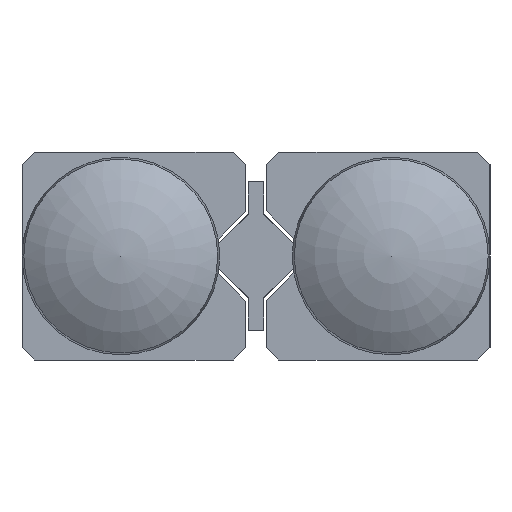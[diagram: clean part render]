
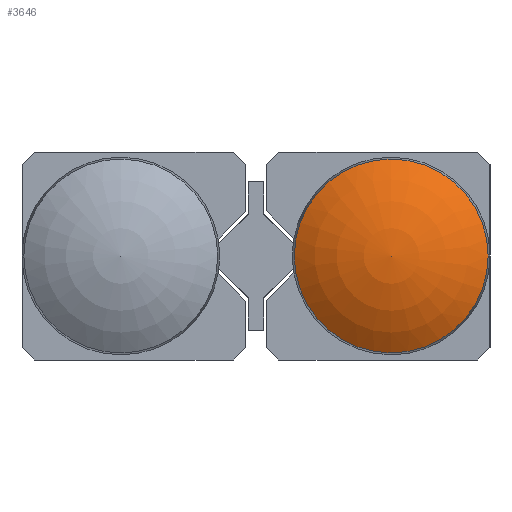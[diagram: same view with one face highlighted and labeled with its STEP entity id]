
A CAD part, left-side view. The second image highlights one B-rep face of the part: STEP entity #3646.
In plain terms, the highlighted toroidal (fillet/blend) face has major radius 0.059 mm and minor radius 6.5 mm.
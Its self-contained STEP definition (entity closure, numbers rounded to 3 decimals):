
#117=VERTEX_LOOP('',#1950);
#121=DEGENERATE_TOROIDAL_SURFACE('',#5006,0.059,6.5,.F.);
#210=CIRCLE('',#5005,3.728);
#422=ORIENTED_EDGE('',*,*,#1433,.T.);
#1433=EDGE_CURVE('',#1949,#1949,#210,.T.);
#1949=VERTEX_POINT('',#6587);
#1950=VERTEX_POINT('',#6589);
#2979=EDGE_LOOP('',(#422));
#3245=FACE_BOUND('',#2979,.T.);
#3246=FACE_BOUND('',#117,.T.);
#3646=ADVANCED_FACE('',(#3245,#3246),#121,.F.);
#5005=AXIS2_PLACEMENT_3D('',#6586,#5479,#5480);
#5006=AXIS2_PLACEMENT_3D('',#6588,#5481,#5482);
#5479=DIRECTION('',(-1.,0.,0.));
#5480=DIRECTION('',(0.,0.,1.));
#5481=DIRECTION('',(-1.,0.,0.));
#5482=DIRECTION('',(0.,0.,1.));
#6586=CARTESIAN_POINT('',(1.217,-5.2,0.));
#6587=CARTESIAN_POINT('',(1.217,-5.2,3.728));
#6588=CARTESIAN_POINT('',(6.5,-5.2,0.));
#6589=CARTESIAN_POINT('',(0.,-5.2,0.));
